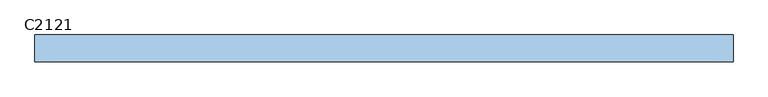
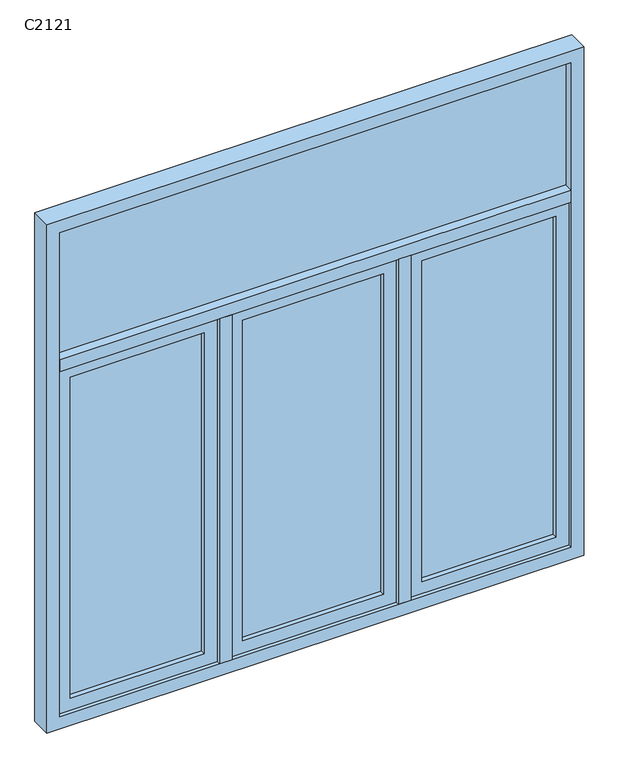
"""IFC4 building model written with IfcOpenShell, lengths in millimetres: window geometry, 组合窗 - 双层三列(三扇平开) - 上部单扇 : C2121."""

from ifc_helpers import new_model, si_unit, frame, origin, place, context, project, spatial, polyline, outline, extrude, source, transform, mapped, element, save


def c2121_4e8fcc55(model_context):
    return source(origin(), model_context, "Body", "SweptSolid", [
        extrude(outline(polyline([(275.0, -10.0), (-275.0, -10.0), (-275.0, 0.0), (275.0, 0.0), (275.0, -10.0)])), frame((0.0, 0.0, 1000.0), z_axis=(0.0, 0.0, 1.0), x_axis=(1.0, 0.0, 0.0)), (0.0, 0.0, 1.0), 1325.0),
        extrude(outline(polyline([(2375.0, 325.0), (2375.0, -325.0), (950.0, -325.0), (950.0, 325.0), (2375.0, 325.0)]), holes=[polyline([(1000.0, 275.0), (1000.0, -275.0), (2325.0, -275.0), (2325.0, 275.0), (1000.0, 275.0)])]), frame((0.0, -30.0, 0.0), z_axis=(0.0, 1.0, 0.0), x_axis=(0.0, 0.0, 1.0)), (0.0, 0.0, 1.0), 50.0),
        extrude(outline(polyline([(1000.0, -10.0), (-1000.0, -10.0), (-1000.0, 0.0), (1000.0, 0.0), (1000.0, -10.0)])), frame((0.0, 0.0, 2425.0), z_axis=(0.0, 0.0, 1.0), x_axis=(1.0, 0.0, 0.0)), (0.0, 0.0, 1.0), 525.0),
        extrude(outline(polyline([(-425.0, -10.0), (-950.0, -10.0), (-950.0, 0.0), (-425.0, 0.0), (-425.0, -10.0)])), frame((0.0, 0.0, 1000.0), z_axis=(0.0, 0.0, 1.0), x_axis=(1.0, 0.0, 0.0)), (0.0, 0.0, 1.0), 1325.0),
        extrude(outline(polyline([(2375.0, -375.0), (2375.0, -1000.0), (950.0, -1000.0), (950.0, -375.0), (2375.0, -375.0)]), holes=[polyline([(1000.0, -425.0), (1000.0, -950.0), (2325.0, -950.0), (2325.0, -425.0), (1000.0, -425.0)])]), frame((0.0, -30.0, 0.0), z_axis=(0.0, 1.0, 0.0), x_axis=(0.0, 0.0, 1.0)), (0.0, 0.0, 1.0), 50.0),
        extrude(outline(polyline([(950.0, -10.0), (425.0, -10.0), (425.0, 0.0), (950.0, 0.0), (950.0, -10.0)])), frame((0.0, 0.0, 1000.0), z_axis=(0.0, 0.0, 1.0), x_axis=(1.0, 0.0, 0.0)), (0.0, 0.0, 1.0), 1325.0),
        extrude(outline(polyline([(2375.0, 1000.0), (2375.0, 375.0), (950.0, 375.0), (950.0, 1000.0), (2375.0, 1000.0)]), holes=[polyline([(1000.0, 950.0), (1000.0, 425.0), (2325.0, 425.0), (2325.0, 950.0), (1000.0, 950.0)])]), frame((0.0, -30.0, 0.0), z_axis=(0.0, 1.0, 0.0), x_axis=(0.0, 0.0, 1.0)), (0.0, 0.0, 1.0), 50.0),
        extrude(outline(polyline([(325.0, 35.0), (375.0, 35.0), (375.0, -45.0), (325.0, -45.0), (325.0, 35.0)])), frame((0.0, 0.0, 950.0), z_axis=(0.0, 0.0, 1.0), x_axis=(1.0, 0.0, 0.0)), (0.0, 0.0, 1.0), 1425.0),
        extrude(outline(polyline([(-375.0, 35.0), (-325.0, 35.0), (-325.0, -45.0), (-375.0, -45.0), (-375.0, 35.0)])), frame((0.0, 0.0, 950.0), z_axis=(0.0, 0.0, 1.0), x_axis=(1.0, 0.0, 0.0)), (0.0, 0.0, 1.0), 1425.0),
        extrude(outline(polyline([(-1000.0, 35.0), (1000.0, 35.0), (1000.0, -45.0), (-1000.0, -45.0), (-1000.0, 35.0)])), frame((0.0, 0.0, 2375.0), z_axis=(0.0, 0.0, 1.0), x_axis=(1.0, 0.0, 0.0)), (0.0, 0.0, 1.0), 50.0),
        extrude(outline(polyline([(3000.0, -1050.0), (900.0, -1050.0), (900.0, 1050.0), (3000.0, 1050.0), (3000.0, -1050.0)]), holes=[polyline([(2950.0, 1000.0), (950.0, 1000.0), (950.0, -1000.0), (2950.0, -1000.0), (2950.0, 1000.0)])]), frame((0.0, -45.0, 0.0), z_axis=(0.0, 1.0, 0.0), x_axis=(0.0, 0.0, 1.0)), (0.0, 0.0, 1.0), 80.0),
    ])


if __name__ == "__main__":
    model = new_model("IFC4")
    model_context = context("Model", 3, world=origin())
    ifc_project = project(units=[si_unit("LENGTHUNIT", "METRE", prefix="MILLI")], contexts=[model_context])
    site = spatial("IfcSite", under=ifc_project)
    building = spatial("IfcBuilding", under=site)
    placement = place(None, origin())
    c2121_shape = c2121_4e8fcc55(model_context)
    element("IfcWindow", 1, ObjectType="组合窗 - 双层三列(三扇平开) - 上部单扇 : C2121", at=placement, inside=building, context=model_context, shape_type="MappedRepresentation", body=[
        mapped(c2121_shape, transform((0.0, 0.0, 0.0), x_axis=(1.0, 0.0, 0.0), y_axis=(0.0, 1.0, 0.0), z_axis=(0.0, 0.0, 1.0))),
    ])
    save(model, "model.ifc")
